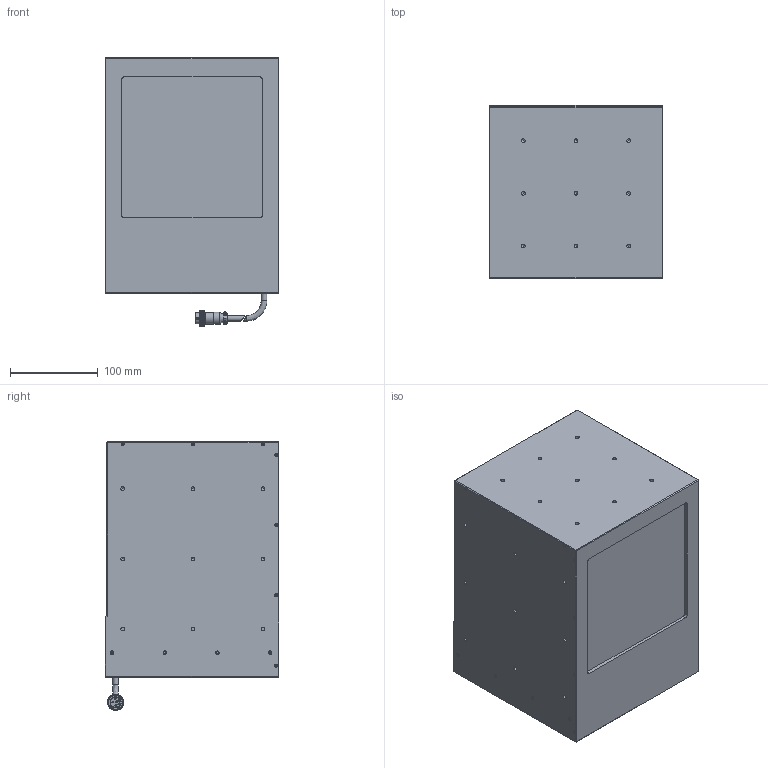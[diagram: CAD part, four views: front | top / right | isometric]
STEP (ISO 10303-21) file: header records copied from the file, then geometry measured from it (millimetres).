
FILE_DESCRIPTION (( 'STEP AP203' ), '1' );
FILE_NAME ('OPT-CO200-X-V4.3尨砩芞.STEP', '2025-01-22T06:24:15', ( '' ), ( '' ), 'SwSTEP 2.0', 'SolidWorks 2016', '' );
FILE_SCHEMA (( 'CONFIG_CONTROL_DESIGN' ));
Products named in the file (1): OPT-CO200-X-V4.3尨砩芞
Bounding box: 198 x 198 x 305.95 mm (x, y, z)
Volume: 6216200.8 mm3; surface area: 635887.2 mm2
Topology: 4 solids, 16 shells, 3496 faces, 7837 edges, 4394 vertices
Faces by surface type: bspline 2058, cylinder 746, plane 617, cone 75
Full cylindrical faces by diameter (mm): 0.95 x6, 1.6 x24, 2 x24, 2.4 x26, 4.2 x27, 6.5 x3, 7 x1, 7.5 x1, 10 x1, 12 x1, 13.2 x1, 14 x1, 14.5 x1, 15 x1, 16.1 x1
Entity records: 118335 total; most frequent: CARTESIAN_POINT 60122, ORIENTED_EDGE 15080, EDGE_CURVE 7540, DIRECTION 5585, B_SPLINE_CURVE_WITH_KNOTS 5327, VERTEX_POINT 4297, EDGE_LOOP 3777, FACE_OUTER_BOUND 3621
